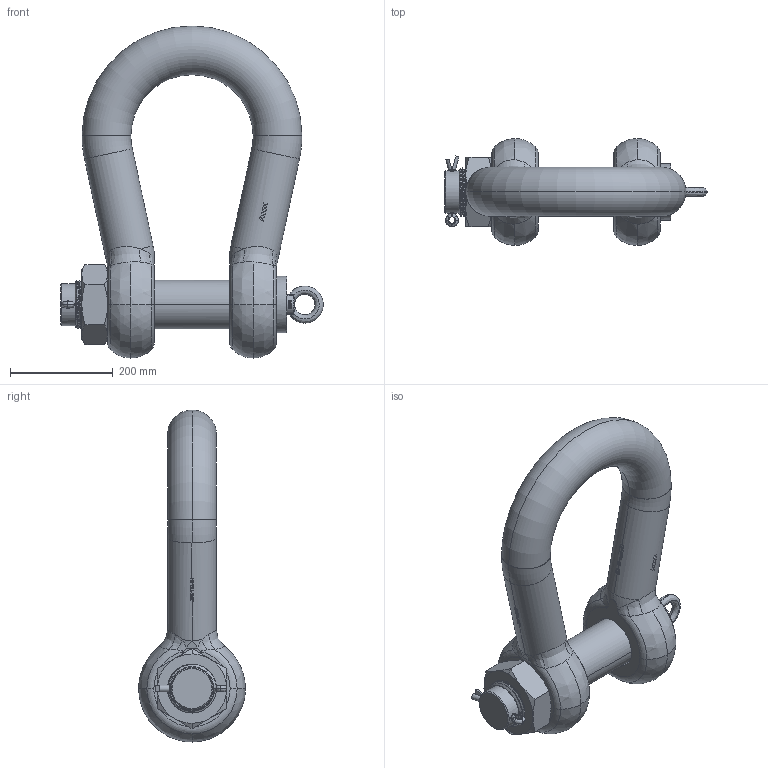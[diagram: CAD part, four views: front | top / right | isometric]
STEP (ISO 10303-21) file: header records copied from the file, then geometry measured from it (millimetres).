
FILE_DESCRIPTION(('STEP AP214'),'1');
FILE_NAME('hdsuhm0150.stp','2017-05-10T11:16:47',('TraceParts'),('TraceParts S.A.'),'Spatial InterOp 3D',' ',' ');
FILE_SCHEMA(('automotive_design'));
Length unit declared in the file: millimetre
Products named in the file (5): HDSUHM0150|HDSUHM0150_1#HDSUHM0150_1;MANIFOLD_SOLID_BREP #20921; HDSUHM0150|HDSUHM0150_1#HDSUHM0150_2;MANIFOLD_SOLID_BREP #36840; hdsuhm0150_3; hdsuhm0150_4; hdsuhm0150_5
Bounding box: 511 x 208 x 646.5 mm (x, y, z)
Volume: 14611425.5 mm3; surface area: 774836.1 mm2
Topology: 5 solids, 5 shells, 1255 faces, 4773 edges, 3552 vertices
Faces by surface type: bspline 468, plane 408, cylinder 317, torus 36, cone 26
Entity records: 92842 total; most frequent: CARTESIAN_POINT 50148, ORIENTED_EDGE 9542, EDGE_CURVE 4771, VERTEX_POINT 3552, B_SPLINE_CURVE_WITH_KNOTS 3481, DIRECTION 2923, EDGE_LOOP 1291, STYLED_ITEM 1260
